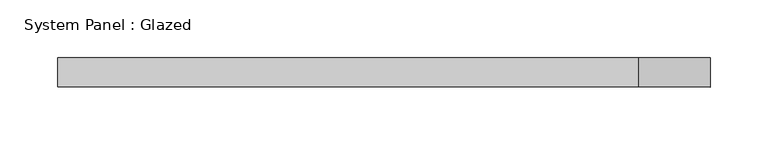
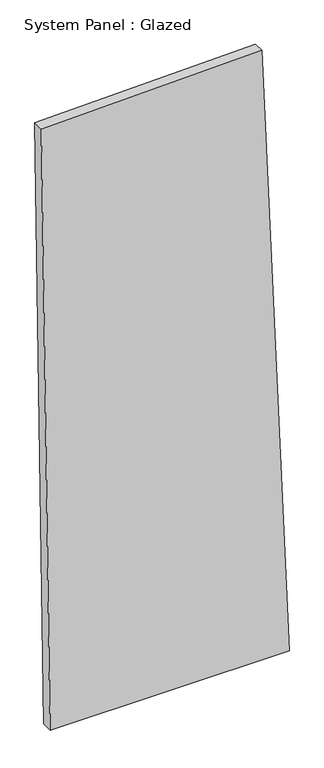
"""IFC4 building model written with IfcOpenShell, lengths in millimetres: plate geometry, System Panel : Glazed."""

from ifc_helpers import new_model, si_unit, frame, origin, place, context, project, spatial, polyline, outline, extrude, source, transform, mapped, element, save


def system_panel_glazed_e5f4b8b8(model_context):
    return source(origin(), model_context, "Body", "SweptSolid", [
        extrude(outline(polyline([(0.0, -263.6177126), (0.0, 283.4453425), (1472.0089303, 220.612968), (1457.7827093, -283.4453425), (0.0, -263.6177126)])), frame((0.0, -44.45, 0.0), z_axis=(0.0, 1.0, 0.0), x_axis=(0.0, 0.0, 1.0)), (0.0, 0.0, 1.0), 25.4),
    ])


if __name__ == "__main__":
    model = new_model("IFC4")
    model_context = context("Model", 3, world=origin())
    ifc_project = project(units=[si_unit("LENGTHUNIT", "METRE", prefix="MILLI")], contexts=[model_context])
    site = spatial("IfcSite", under=ifc_project)
    building = spatial("IfcBuilding", under=site)
    placement = place(None, origin())
    system_panel_glazed_shape = system_panel_glazed_e5f4b8b8(model_context)
    element("IfcPlate", 1, ObjectType="System Panel : Glazed", at=placement, inside=building, context=model_context, shape_type="MappedRepresentation", body=[
        mapped(system_panel_glazed_shape, transform((0.0, 0.0, 0.0), x_axis=(1.0, 0.0, 0.0), y_axis=(0.0, 1.0, 0.0), z_axis=(0.0, 0.0, 1.0))),
    ])
    save(model, "model.ifc")
